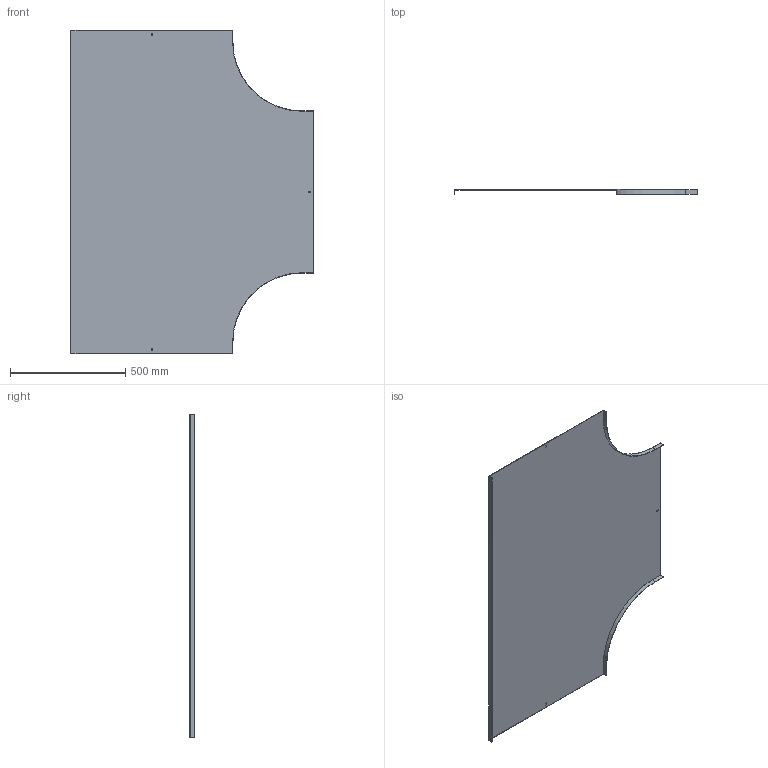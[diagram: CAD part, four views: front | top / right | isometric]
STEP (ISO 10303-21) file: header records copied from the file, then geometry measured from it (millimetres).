
FILE_DESCRIPTION (( 'STEP AP214' ), '1' );
FILE_NAME ('B2_15N3R700.step', '2025-02-21T12:07:18', ( '' ), ( '' ), 'SwSTEP 2.0', 'SolidWorks 2023', '' );
FILE_SCHEMA (( 'AUTOMOTIVE_DESIGN' ));
Length unit declared in the file: millimetre
Products named in the file (1): B2_15N3R700
Bounding box: 1051.5 x 20 x 1400 mm (x, y, z)
Volume: 1971382.9 mm3; surface area: 2635786.7 mm2
Topology: 1 solids, 1 shells, 34 faces, 96 edges, 64 vertices
Faces by surface type: plane 30, cylinder 4
Entity records: 1123 total; most frequent: CARTESIAN_POINT 195, ORIENTED_EDGE 192, DIRECTION 174, EDGE_CURVE 96, LINE 88, VECTOR 88, VERTEX_POINT 64, AXIS2_PLACEMENT_3D 43
